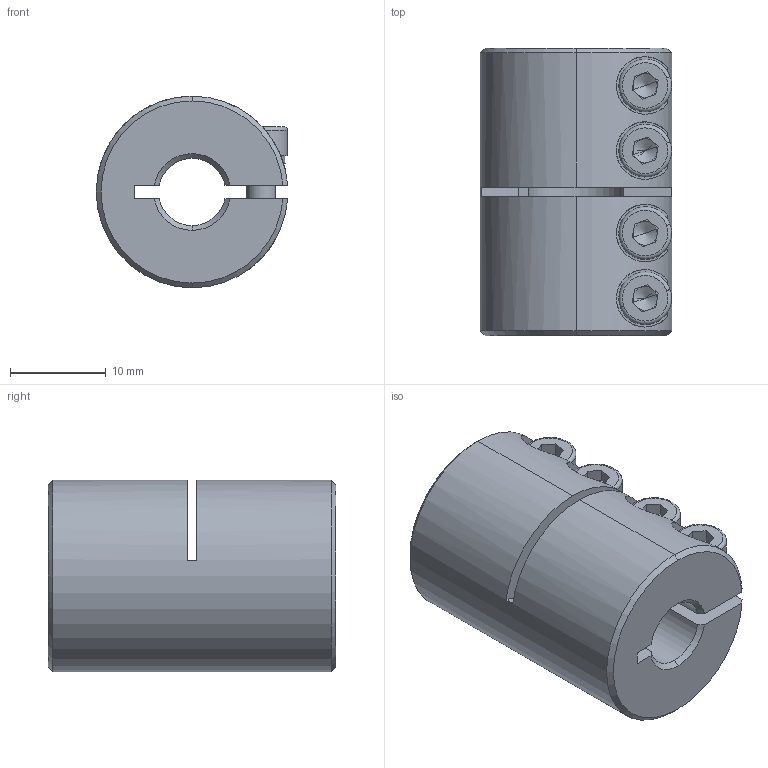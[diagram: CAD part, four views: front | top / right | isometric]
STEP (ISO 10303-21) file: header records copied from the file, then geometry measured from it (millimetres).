
FILE_DESCRIPTION (( 'STEP AP203' ), '1' );
FILE_NAME ('LL-B-D20L30-7-10.STEP', '2021-11-05T03:17:06', ( '' ), ( '' ), 'SwSTEP 2.0', 'SolidWorks 2018', '' );
FILE_SCHEMA (( 'CONFIG_CONTROL_DESIGN' ));
Length unit declared in the file: millimetre
Products named in the file (1): LL-B-D20L30-7-10
Bounding box: 19.98 x 30 x 20 mm (x, y, z)
Volume: 7056.2 mm3; surface area: 4551.9 mm2
Topology: 1 solids, 1 shells, 178 faces, 459 edges, 287 vertices
Faces by surface type: plane 89, cylinder 61, cone 20, torus 8
Entity records: 5821 total; most frequent: CARTESIAN_POINT 1349, DIRECTION 958, ORIENTED_EDGE 902, EDGE_CURVE 451, AXIS2_PLACEMENT_3D 368, VERTEX_POINT 287, LINE 222, VECTOR 222
